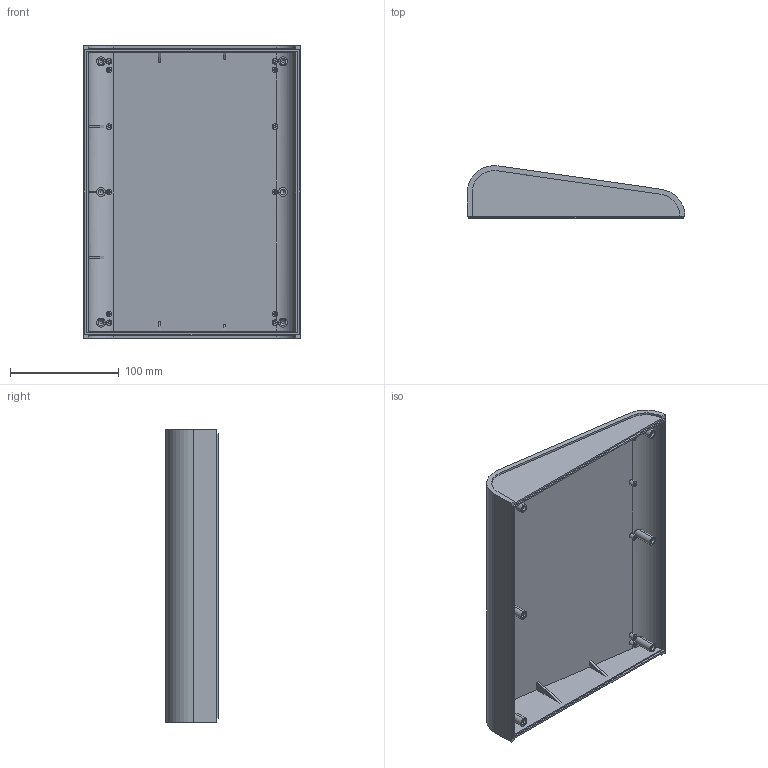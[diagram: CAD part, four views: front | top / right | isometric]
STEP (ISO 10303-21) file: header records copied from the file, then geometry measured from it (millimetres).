
FILE_DESCRIPTION (( 'STEP AP214' ), '1' );
FILE_NAME ('Tapa PP105G.STEP', '2017-08-24T07:33:39', ( 'aaa' ), ( '' ), 'SwSTEP 2.0', 'SolidWorks 2013', '' );
FILE_SCHEMA (( 'AUTOMOTIVE_DESIGN' ));
Length unit declared in the file: millimetre
Products named in the file (1): Tapa PP105G
Bounding box: 200 x 47.99 x 268 mm (x, y, z)
Volume: 340123.1 mm3; surface area: 170504 mm2
Topology: 1 solids, 1 shells, 185 faces, 426 edges, 276 vertices
Faces by surface type: plane 87, cylinder 86, cone 12
Entity records: 6335 total; most frequent: CARTESIAN_POINT 2056, DIRECTION 892, ORIENTED_EDGE 852, EDGE_CURVE 426, AXIS2_PLACEMENT_3D 329, VERTEX_POINT 276, VECTOR 234, LINE 234
